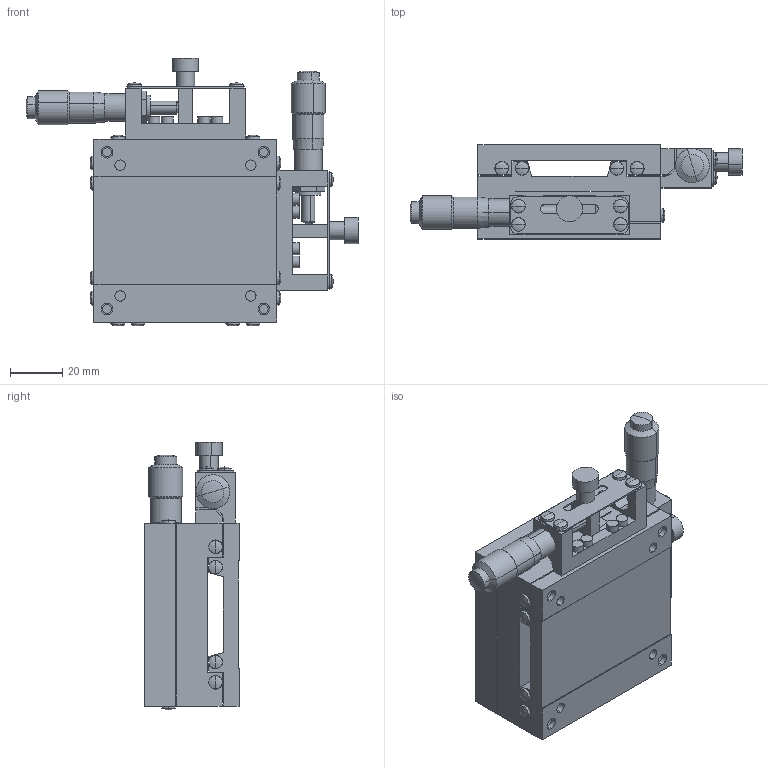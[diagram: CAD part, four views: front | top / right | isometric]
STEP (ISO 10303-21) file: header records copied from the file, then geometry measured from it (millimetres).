
FILE_DESCRIPTION (( 'STEP AP214' ), '1' );
FILE_NAME ('LD‐7041‐SR1‐2.STEP', '2007-08-28T10:56:10', ( '' ), ( '' ), 'SwSTEP 2.0', 'SolidWorks 2006303', '' );
FILE_SCHEMA (( 'AUTOMOTIVE_DESIGN' ));
Length unit declared in the file: millimetre
Products named in the file (4): LD‐7041‐SR1‐2; LD70R120－1_ﾃﾞﾌｫﾙﾄ; LD70R120－3_ﾃﾞﾌｫﾙﾄ; LD70R120－2_ﾃﾞﾌｫﾙﾄ
Assembly tree (3 placements, depth 2):
  LD‐7041‐SR1‐2
    LD70R120－2_ﾃﾞﾌｫﾙﾄ
    LD70R120－1_ﾃﾞﾌｫﾙﾄ
    LD70R120－3_ﾃﾞﾌｫﾙﾄ
Bounding box: 127 x 36 x 102.5 mm (x, y, z)
Volume: 164731.9 mm3; surface area: 67264.3 mm2
Topology: 5 solids, 13 shells, 534 faces, 1282 edges, 816 vertices
Faces by surface type: plane 216, cylinder 202, cone 60, sphere 52, torus 4
Entity records: 15835 total; most frequent: DIRECTION 2970, CARTESIAN_POINT 2634, ORIENTED_EDGE 2556, EDGE_CURVE 1278, AXIS2_PLACEMENT_3D 1152, VERTEX_POINT 816, VECTOR 666, LINE 666
